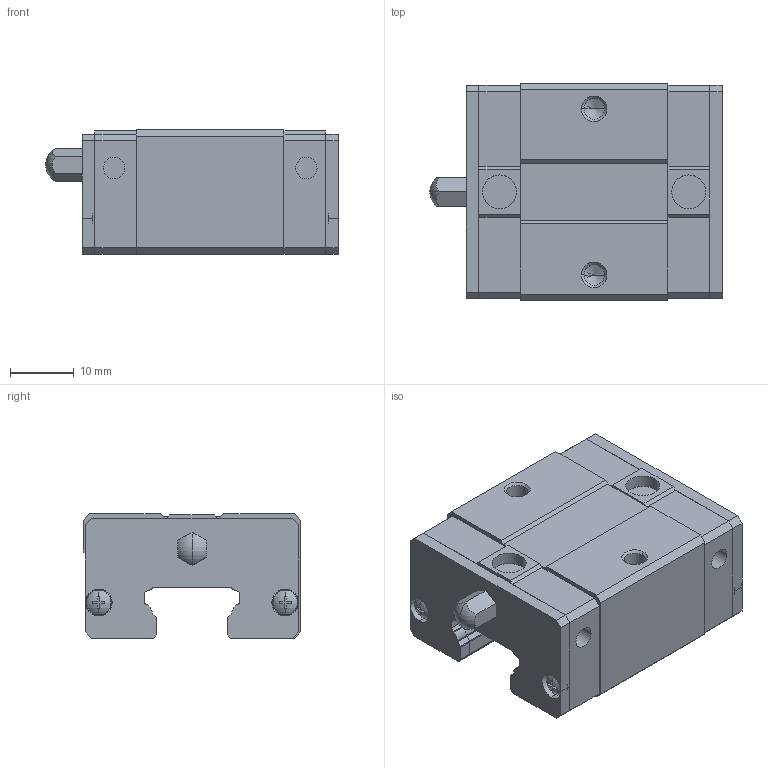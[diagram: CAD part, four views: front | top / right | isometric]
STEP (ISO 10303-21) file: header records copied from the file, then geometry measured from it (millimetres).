
FILE_DESCRIPTION(('starvars output'),'2;1');
FILE_NAME('cv20190610052000000012983.stp','05:20:00 2019/06/10',( 'Thomas Industrial Network Germany GmbH'),( 'Thomas Industrial Network Germany GmbH'),'unknown preprocess','ACIS' ,'unknown authorization');
FILE_SCHEMA(('CONFIG_CONTROL_DESIGN {UNKNOWN IMPLEMENTATION LEVEL}'));
Length unit declared in the file: millimetre
Products named in the file (10): PRODUCT_ID_1; PRODUCT_ID_2; PRODUCT_ID_3; PRODUCT_ID_4; PRODUCT_ID_5; PRODUCT_ID_6; PRODUCT_ID_7; PRODUCT_ID_8; PRODUCT_ID_9; PRODUCT_ID_10
Bounding box: 45.8 x 34 x 19.5 mm (x, y, z)
Volume: 21416.8 mm3; surface area: 11124.1 mm2
Topology: 10 solids, 10 shells, 346 faces, 921 edges, 602 vertices
Faces by surface type: plane 190, cylinder 126, cone 20, sphere 10
Entity records: 10922 total; most frequent: ORIENTED_EDGE 1842, CARTESIAN_POINT 1703, DIRECTION 1662, EDGE_CURVE 917, VERTEX_POINT 602, AXIS2_PLACEMENT_3D 561, VECTOR 540, LINE 540
